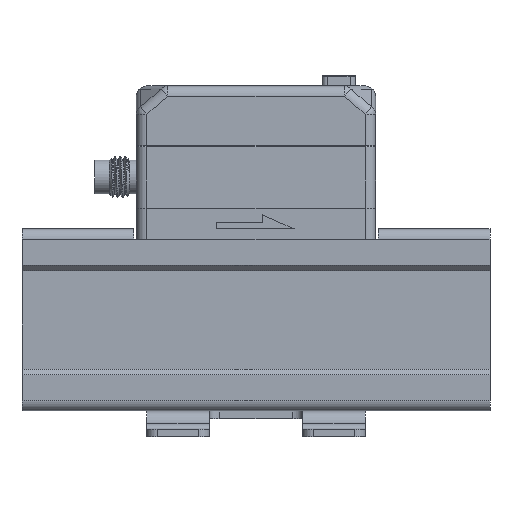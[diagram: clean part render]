
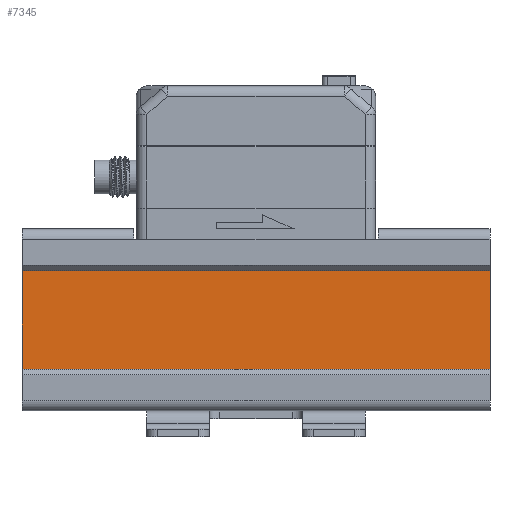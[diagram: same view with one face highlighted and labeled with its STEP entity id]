
A CAD part, front view. The second image highlights one B-rep face of the part: STEP entity #7345.
In plain terms, the highlighted planar face has unit normal (0, -1, 0).
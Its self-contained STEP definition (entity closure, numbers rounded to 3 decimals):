
#3647=FACE_OUTER_BOUND('',#9660,.T.);
#4406=LINE('',#24322,#5789);
#4407=LINE('',#24325,#5790);
#4408=LINE('',#24327,#5791);
#4409=LINE('',#24329,#5792);
#5789=VECTOR('',#20411,1.);
#5790=VECTOR('',#20412,1.);
#5791=VECTOR('',#20413,1.);
#5792=VECTOR('',#20414,1.);
#7345=ADVANCED_FACE('',(#3647),#8255,.F.);
#8255=PLANE('',#19232);
#9660=EDGE_LOOP('',(#10799,#10800,#10801,#10802));
#10799=ORIENTED_EDGE('',*,*,#16627,.T.);
#10800=ORIENTED_EDGE('',*,*,#16628,.T.);
#10801=ORIENTED_EDGE('',*,*,#16629,.T.);
#10802=ORIENTED_EDGE('',*,*,#16630,.F.);
#15161=VERTEX_POINT('',#24323);
#15162=VERTEX_POINT('',#24324);
#15163=VERTEX_POINT('',#24326);
#15164=VERTEX_POINT('',#24328);
#16627=EDGE_CURVE('',#15161,#15162,#4406,.T.);
#16628=EDGE_CURVE('',#15162,#15163,#4407,.T.);
#16629=EDGE_CURVE('',#15163,#15164,#4408,.T.);
#16630=EDGE_CURVE('',#15161,#15164,#4409,.T.);
#19232=AXIS2_PLACEMENT_3D('',#24330,#20415,#20416);
#20411=DIRECTION('',(-1.,0.,0.));
#20412=DIRECTION('',(0.,0.,-1.));
#20413=DIRECTION('',(1.,0.,0.));
#20414=DIRECTION('',(0.,0.,-1.));
#20415=DIRECTION('',(0.,1.,0.));
#20416=DIRECTION('',(0.,0.,-1.));
#24322=CARTESIAN_POINT('',(0.,28.5,24.5));
#24323=CARTESIAN_POINT('',(80.,28.5,24.5));
#24324=CARTESIAN_POINT('',(-10.,28.5,24.5));
#24325=CARTESIAN_POINT('',(-10.,28.5,30.));
#24326=CARTESIAN_POINT('',(-10.,28.5,5.5));
#24327=CARTESIAN_POINT('',(0.,28.5,5.5));
#24328=CARTESIAN_POINT('',(80.,28.5,5.5));
#24329=CARTESIAN_POINT('',(80.,28.5,30.));
#24330=CARTESIAN_POINT('',(0.,28.5,30.));
